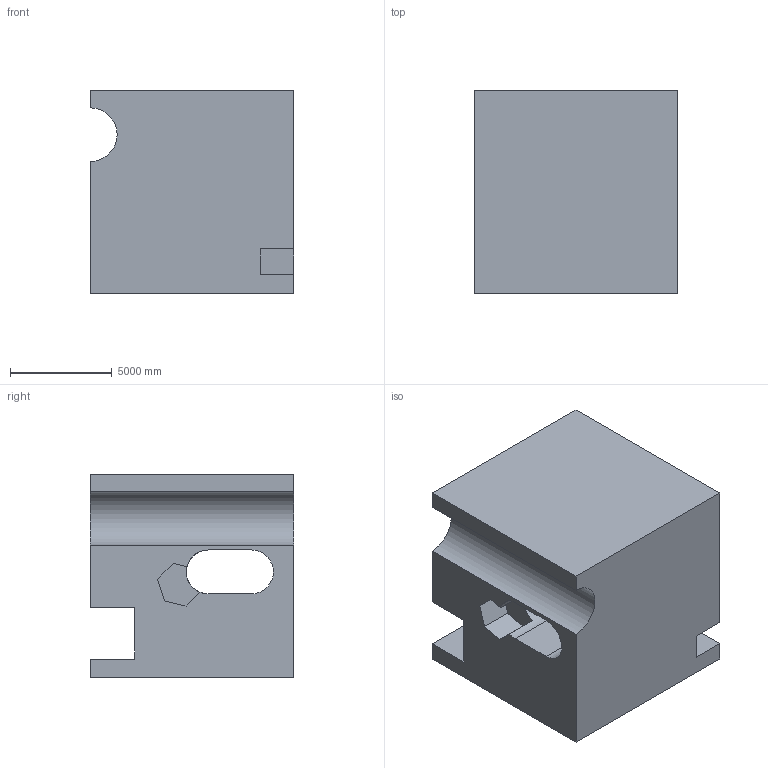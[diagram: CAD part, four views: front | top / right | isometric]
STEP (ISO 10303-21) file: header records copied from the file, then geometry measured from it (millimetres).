
FILE_DESCRIPTION (( 'STEP AP203' ), '1' );
FILE_NAME ('553.STEP', '2022-07-29T11:47:25', ( 'user' ), ( '' ), 'SwSTEP 2.0', 'SolidWorks 2021', '' );
FILE_SCHEMA (( 'CONFIG_CONTROL_DESIGN' ));
Length unit declared in the file: centimetre
Products named in the file (1): 553
Bounding box: 10000 x 10000 x 10000 mm (x, y, z)
Volume: 799694603498.7 mm3; surface area: 791540550.5 mm2
Topology: 1 solids, 1 shells, 33 faces, 96 edges, 64 vertices
Faces by surface type: plane 30, cylinder 3
Entity records: 1163 total; most frequent: CARTESIAN_POINT 206, ORIENTED_EDGE 192, DIRECTION 168, EDGE_CURVE 96, VECTOR 84, LINE 84, VERTEX_POINT 64, AXIS2_PLACEMENT_3D 42
